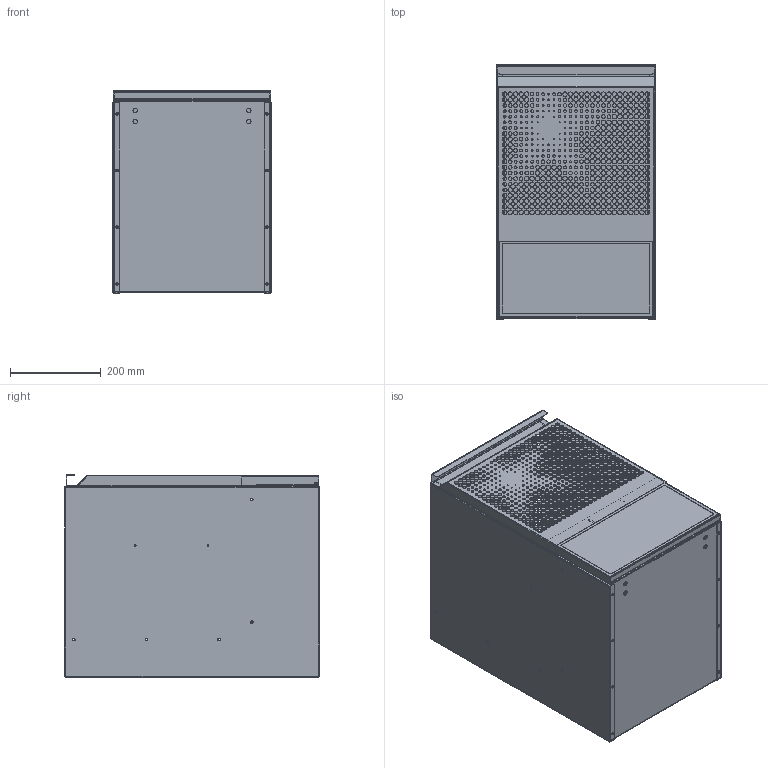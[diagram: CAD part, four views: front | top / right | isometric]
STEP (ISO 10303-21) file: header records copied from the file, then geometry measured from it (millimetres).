
FILE_DESCRIPTION (( 'STEP AP214' ), '1' );
FILE_NAME ('MS-IFU-350.STEP', '2024-05-30T12:24:14', ( '' ), ( '' ), 'SwSTEP 2.0', 'SolidWorks 2023', '' );
FILE_SCHEMA (( 'AUTOMOTIVE_DESIGN' ));
Length unit declared in the file: millimetre
Products named in the file (1): MS-IFU-350
Bounding box: 350 x 560.36 x 445.11 mm (x, y, z)
Volume: 1252473.7 mm3; surface area: 2562407.9 mm2
Topology: 7 solids, 7 shells, 2025 faces, 5865 edges, 3854 vertices
Faces by surface type: cylinder 1601, plane 344, cone 60, bspline 20
Entity records: 72291 total; most frequent: CARTESIAN_POINT 13090, DIRECTION 13063, ORIENTED_EDGE 11730, EDGE_CURVE 5865, AXIS2_PLACEMENT_3D 5232, VERTEX_POINT 3854, EDGE_LOOP 3419, CIRCLE 3226
